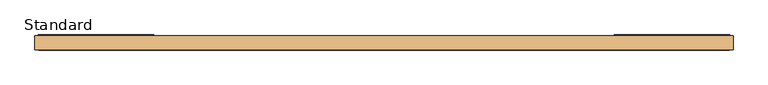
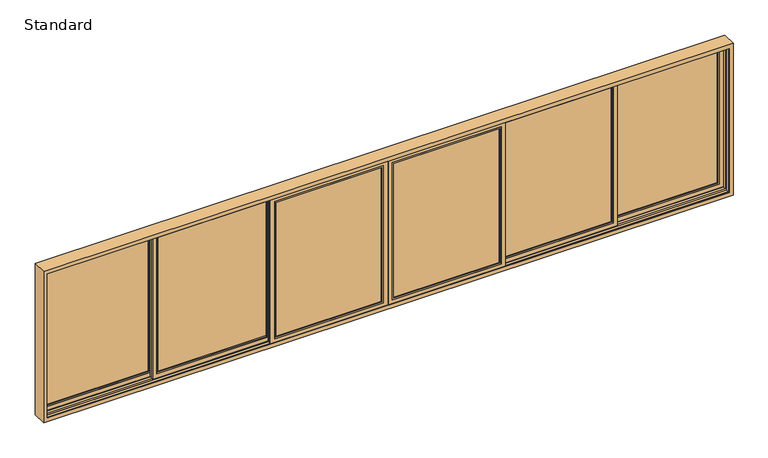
"""IFC4 building model written with IfcOpenShell, lengths in millimetres: door geometry, SMARTS_Visoglide Plus : Standard."""

from ifc_helpers import new_model, si_unit, frame, origin, place, context, project, spatial, polyline, outline, extrude, faceted_brep, source, transform, mapped, element, save


def standard_5dccf147(model_context):
    return source(origin(), model_context, "Body", "SolidModel", [
        extrude(outline(polyline([(4392.5, 67.0), (3023.1666667, 67.0), (3023.1666667, 71.0), (4392.5, 71.0), (4392.5, 67.0)])), frame((0.0, 0.0, 907.5), z_axis=(0.0, 0.0, 1.0), x_axis=(1.0, 0.0, 0.0)), (0.0, 0.0, 1.0), 1885.0),
        extrude(outline(polyline([(4392.5, 87.0), (3023.1666667, 87.0), (3023.1666667, 91.0), (4392.5, 91.0), (4392.5, 87.0)])), frame((0.0, 0.0, 907.5), z_axis=(0.0, 0.0, 1.0), x_axis=(1.0, 0.0, 0.0)), (0.0, 0.0, 1.0), 1885.0),
        extrude(outline(polyline([(2792.5, 3023.1666667), (907.5, 3023.1666667), (907.5, 4392.5), (2792.5, 4392.5), (2792.5, 3023.1666667)]), holes=[polyline([(2782.5, 4382.5), (917.5, 4382.5), (917.5, 3033.1666667), (2782.5, 3033.1666667), (2782.5, 4382.5)])]), frame((0.0, 71.0, 0.0), z_axis=(0.0, 1.0, 0.0), x_axis=(0.0, 0.0, 1.0)), (0.0, 0.0, 1.0), 16.0),
        extrude(outline(polyline([(2797.5, 4397.5), (2797.5, 3018.1666667), (902.5, 3018.1666667), (902.5, 4397.5), (2797.5, 4397.5)]), holes=[polyline([(922.5, 4377.5), (922.5, 3038.1666667), (2777.5, 3038.1666667), (2777.5, 4377.5), (922.5, 4377.5)])]), frame((0.0, 48.0, 0.0), z_axis=(0.0, 1.0, 0.0), x_axis=(0.0, 0.0, 1.0)), (0.0, 0.0, 1.0), 11.9897777),
        extrude(outline(polyline([(2851.5, 4451.5), (2851.5, 2964.1666667), (848.5, 2964.1666667), (848.5, 4451.5), (2851.5, 4451.5)]), holes=[polyline([(902.5, 4397.5), (902.5, 3018.1666667), (2797.5, 3018.1666667), (2797.5, 4397.5), (902.5, 4397.5)])]), frame((0.0, 48.0, 0.0), z_axis=(0.0, 1.0, 0.0), x_axis=(0.0, 0.0, 1.0)), (0.0, 0.0, 1.0), 24.0),
        faceted_brep([(4377.5, 95.0, 2777.5), (4377.5, 99.0, 2777.5), (4377.5, 99.0, 922.5), (4377.5, 95.0, 922.5), (4400.5, 72.0, 2800.5), (4400.5, 95.0, 2800.5), (4400.5, 95.0, 899.5), (4400.5, 72.0, 899.5), (4451.5, 99.0, 2851.5), (4451.5, 72.0, 2851.5), (4451.5, 72.0, 848.5), (4451.5, 99.0, 848.5), (3038.1666667, 99.0, 922.5), (3038.1666667, 95.0, 922.5), (3015.1666667, 95.0, 899.5), (3015.1666667, 72.0, 899.5), (2964.1666667, 72.0, 848.5), (2964.1666667, 99.0, 848.5), (3038.1666667, 99.0, 2777.5), (3038.1666667, 95.0, 2777.5), (3015.1666667, 95.0, 2800.5), (3015.1666667, 72.0, 2800.5), (2964.1666667, 72.0, 2851.5), (2964.1666667, 99.0, 2851.5)], [[[0, 1, 2, 3]], [[4, 5, 6, 7]], [[8, 9, 10, 11]], [[3, 2, 12, 13]], [[7, 6, 14, 15]], [[11, 10, 16, 17]], [[13, 12, 18, 19]], [[15, 14, 20, 21]], [[17, 16, 22, 23]], [[11, 17, 23, 8], [1, 18, 12, 2]], [[19, 18, 1, 0]], [[5, 20, 14, 6], [3, 13, 19, 0]], [[21, 20, 5, 4]], [[9, 22, 16, 10], [7, 15, 21, 4]], [[23, 22, 9, 8]]]),
        extrude(outline(polyline([(2970.1666667, 0.0), (1524.8333333, 0.0), (1524.8333333, 4.0), (2970.1666667, 4.0), (2970.1666667, 0.0)])), frame((0.0, 0.0, 907.5), z_axis=(0.0, 0.0, 1.0), x_axis=(1.0, 0.0, 0.0)), (0.0, 0.0, 1.0), 1885.0),
        extrude(outline(polyline([(2970.1666667, 20.0), (1524.8333333, 20.0), (1524.8333333, 24.0), (2970.1666667, 24.0), (2970.1666667, 20.0)])), frame((0.0, 0.0, 907.5), z_axis=(0.0, 0.0, 1.0), x_axis=(1.0, 0.0, 0.0)), (0.0, 0.0, 1.0), 1885.0),
        extrude(outline(polyline([(2792.5, 1524.8333333), (907.5, 1524.8333333), (907.5, 2970.1666667), (2792.5, 2970.1666667), (2792.5, 1524.8333333)]), holes=[polyline([(2782.5, 2960.1666667), (917.5, 2960.1666667), (917.5, 1534.8333333), (2782.5, 1534.8333333), (2782.5, 2960.1666667)])]), frame((0.0, 4.0, 0.0), z_axis=(0.0, 1.0, 0.0), x_axis=(0.0, 0.0, 1.0)), (0.0, 0.0, 1.0), 16.0),
        extrude(outline(polyline([(2797.5, 2975.1666667), (2797.5, 1519.8333333), (902.5, 1519.8333333), (902.5, 2975.1666667), (2797.5, 2975.1666667)]), holes=[polyline([(922.5, 2955.1666667), (922.5, 1539.8333333), (2777.5, 1539.8333333), (2777.5, 2955.1666667), (922.5, 2955.1666667)])]), frame((0.0, -19.0, 0.0), z_axis=(0.0, 1.0, 0.0), x_axis=(0.0, 0.0, 1.0)), (0.0, 0.0, 1.0), 11.9897777),
        extrude(outline(polyline([(2851.5, 3029.1666667), (2851.5, 1465.8333333), (848.5, 1465.8333333), (848.5, 3029.1666667), (2851.5, 3029.1666667)]), holes=[polyline([(902.5, 2975.1666667), (902.5, 1519.8333333), (2797.5, 1519.8333333), (2797.5, 2975.1666667), (902.5, 2975.1666667)])]), frame((0.0, -19.0, 0.0), z_axis=(0.0, 1.0, 0.0), x_axis=(0.0, 0.0, 1.0)), (0.0, 0.0, 1.0), 24.0),
        faceted_brep([(2955.1666667, 28.0, 2777.5), (2955.1666667, 32.0, 2777.5), (2955.1666667, 32.0, 922.5), (2955.1666667, 28.0, 922.5), (2978.1666667, 5.0, 2800.5), (2978.1666667, 28.0, 2800.5), (2978.1666667, 28.0, 899.5), (2978.1666667, 5.0, 899.5), (3029.1666667, 32.0, 2851.5), (3029.1666667, 5.0, 2851.5), (3029.1666667, 5.0, 848.5), (3029.1666667, 32.0, 848.5), (1539.8333333, 32.0, 922.5), (1539.8333333, 28.0, 922.5), (1516.8333333, 28.0, 899.5), (1516.8333333, 5.0, 899.5), (1465.8333333, 5.0, 848.5), (1465.8333333, 32.0, 848.5), (1539.8333333, 32.0, 2777.5), (1539.8333333, 28.0, 2777.5), (1516.8333333, 28.0, 2800.5), (1516.8333333, 5.0, 2800.5), (1465.8333333, 5.0, 2851.5), (1465.8333333, 32.0, 2851.5)], [[[0, 1, 2, 3]], [[4, 5, 6, 7]], [[8, 9, 10, 11]], [[3, 2, 12, 13]], [[7, 6, 14, 15]], [[11, 10, 16, 17]], [[13, 12, 18, 19]], [[15, 14, 20, 21]], [[17, 16, 22, 23]], [[11, 17, 23, 8], [1, 18, 12, 2]], [[19, 18, 1, 0]], [[5, 20, 14, 6], [3, 13, 19, 0]], [[21, 20, 5, 4]], [[9, 22, 16, 10], [7, 15, 21, 4]], [[23, 22, 9, 8]]]),
        extrude(outline(polyline([(1471.8333333, -67.0), (63.0, -67.0), (63.0, -63.0), (1471.8333333, -63.0), (1471.8333333, -67.0)])), frame((0.0, 0.0, 907.5), z_axis=(0.0, 0.0, 1.0), x_axis=(1.0, 0.0, 0.0)), (0.0, 0.0, 1.0), 1885.0),
        extrude(outline(polyline([(1471.8333333, -47.0), (63.0, -47.0), (63.0, -43.0), (1471.8333333, -43.0), (1471.8333333, -47.0)])), frame((0.0, 0.0, 907.5), z_axis=(0.0, 0.0, 1.0), x_axis=(1.0, 0.0, 0.0)), (0.0, 0.0, 1.0), 1885.0),
        extrude(outline(polyline([(2792.5, 63.0), (907.5, 63.0), (907.5, 1471.8333333), (2792.5, 1471.8333333), (2792.5, 63.0)]), holes=[polyline([(2782.5, 1461.8333333), (917.5, 1461.8333333), (917.5, 73.0), (2782.5, 73.0), (2782.5, 1461.8333333)])]), frame((0.0, -63.0, 0.0), z_axis=(0.0, 1.0, 0.0), x_axis=(0.0, 0.0, 1.0)), (0.0, 0.0, 1.0), 16.0),
        extrude(outline(polyline([(2797.5, 1476.8333333), (2797.5, 58.0), (902.5, 58.0), (902.5, 1476.8333333), (2797.5, 1476.8333333)]), holes=[polyline([(922.5, 1456.8333333), (922.5, 78.0), (2777.5, 78.0), (2777.5, 1456.8333333), (922.5, 1456.8333333)])]), frame((0.0, -86.0, 0.0), z_axis=(0.0, 1.0, 0.0), x_axis=(0.0, 0.0, 1.0)), (0.0, 0.0, 1.0), 11.9897777),
        extrude(outline(polyline([(2851.5, 1530.8333333), (2851.5, 4.0), (848.5, 4.0), (848.5, 1530.8333333), (2851.5, 1530.8333333)]), holes=[polyline([(902.5, 1476.8333333), (902.5, 58.0), (2797.5, 58.0), (2797.5, 1476.8333333), (902.5, 1476.8333333)])]), frame((0.0, -86.0, 0.0), z_axis=(0.0, 1.0, 0.0), x_axis=(0.0, 0.0, 1.0)), (0.0, 0.0, 1.0), 24.0),
        faceted_brep([(1456.8333333, -39.0, 2777.5), (1456.8333333, -35.0, 2777.5), (1456.8333333, -35.0, 922.5), (1456.8333333, -39.0, 922.5), (1479.8333333, -62.0, 2800.5), (1479.8333333, -39.0, 2800.5), (1479.8333333, -39.0, 899.5), (1479.8333333, -62.0, 899.5), (1530.8333333, -35.0, 2851.5), (1530.8333333, -62.0, 2851.5), (1530.8333333, -62.0, 848.5), (1530.8333333, -35.0, 848.5), (78.0, -35.0, 922.5), (78.0, -39.0, 922.5), (55.0, -39.0, 899.5), (55.0, -62.0, 899.5), (4.0, -62.0, 848.5), (4.0, -35.0, 848.5), (78.0, -35.0, 2777.5), (78.0, -39.0, 2777.5), (55.0, -39.0, 2800.5), (55.0, -62.0, 2800.5), (4.0, -62.0, 2851.5), (4.0, -35.0, 2851.5)], [[[0, 1, 2, 3]], [[4, 5, 6, 7]], [[8, 9, 10, 11]], [[3, 2, 12, 13]], [[7, 6, 14, 15]], [[11, 10, 16, 17]], [[13, 12, 18, 19]], [[15, 14, 20, 21]], [[17, 16, 22, 23]], [[11, 17, 23, 8], [1, 18, 12, 2]], [[19, 18, 1, 0]], [[5, 20, 14, 6], [3, 13, 19, 0]], [[21, 20, 5, 4]], [[9, 22, 16, 10], [7, 15, 21, 4]], [[23, 22, 9, 8]]]),
        extrude(outline(polyline([(-63.0, -67.0), (-1471.8333333, -67.0), (-1471.8333333, -63.0), (-63.0, -63.0), (-63.0, -67.0)])), frame((0.0, 0.0, 907.5), z_axis=(0.0, 0.0, 1.0), x_axis=(1.0, 0.0, 0.0)), (0.0, 0.0, 1.0), 1885.0),
        extrude(outline(polyline([(-63.0, -47.0), (-1471.8333333, -47.0), (-1471.8333333, -43.0), (-63.0, -43.0), (-63.0, -47.0)])), frame((0.0, 0.0, 907.5), z_axis=(0.0, 0.0, 1.0), x_axis=(1.0, 0.0, 0.0)), (0.0, 0.0, 1.0), 1885.0),
        extrude(outline(polyline([(2792.5, -1471.8333333), (907.5, -1471.8333333), (907.5, -63.0), (2792.5, -63.0), (2792.5, -1471.8333333)]), holes=[polyline([(2782.5, -73.0), (917.5, -73.0), (917.5, -1461.8333333), (2782.5, -1461.8333333), (2782.5, -73.0)])]), frame((0.0, -63.0, 0.0), z_axis=(0.0, 1.0, 0.0), x_axis=(0.0, 0.0, 1.0)), (0.0, 0.0, 1.0), 16.0),
        extrude(outline(polyline([(2797.5, -58.0), (2797.5, -1476.8333333), (902.5, -1476.8333333), (902.5, -58.0), (2797.5, -58.0)]), holes=[polyline([(922.5, -78.0), (922.5, -1456.8333333), (2777.5, -1456.8333333), (2777.5, -78.0), (922.5, -78.0)])]), frame((0.0, -86.0, 0.0), z_axis=(0.0, 1.0, 0.0), x_axis=(0.0, 0.0, 1.0)), (0.0, 0.0, 1.0), 11.9897777),
        extrude(outline(polyline([(2851.5, -4.0), (2851.5, -1530.8333333), (848.5, -1530.8333333), (848.5, -4.0), (2851.5, -4.0)]), holes=[polyline([(902.5, -58.0), (902.5, -1476.8333333), (2797.5, -1476.8333333), (2797.5, -58.0), (902.5, -58.0)])]), frame((0.0, -86.0, 0.0), z_axis=(0.0, 1.0, 0.0), x_axis=(0.0, 0.0, 1.0)), (0.0, 0.0, 1.0), 24.0),
        faceted_brep([(-78.0, -39.0, 2777.5), (-78.0, -35.0, 2777.5), (-78.0, -35.0, 922.5), (-78.0, -39.0, 922.5), (-55.0, -62.0, 2800.5), (-55.0, -39.0, 2800.5), (-55.0, -39.0, 899.5), (-55.0, -62.0, 899.5), (-4.0, -35.0, 2851.5), (-4.0, -62.0, 2851.5), (-4.0, -62.0, 848.5), (-4.0, -35.0, 848.5), (-1456.8333333, -35.0, 922.5), (-1456.8333333, -39.0, 922.5), (-1479.8333333, -39.0, 899.5), (-1479.8333333, -62.0, 899.5), (-1530.8333333, -62.0, 848.5), (-1530.8333333, -35.0, 848.5), (-1456.8333333, -35.0, 2777.5), (-1456.8333333, -39.0, 2777.5), (-1479.8333333, -39.0, 2800.5), (-1479.8333333, -62.0, 2800.5), (-1530.8333333, -62.0, 2851.5), (-1530.8333333, -35.0, 2851.5)], [[[0, 1, 2, 3]], [[4, 5, 6, 7]], [[8, 9, 10, 11]], [[3, 2, 12, 13]], [[7, 6, 14, 15]], [[11, 10, 16, 17]], [[13, 12, 18, 19]], [[15, 14, 20, 21]], [[17, 16, 22, 23]], [[11, 17, 23, 8], [1, 18, 12, 2]], [[19, 18, 1, 0]], [[5, 20, 14, 6], [3, 13, 19, 0]], [[21, 20, 5, 4]], [[9, 22, 16, 10], [7, 15, 21, 4]], [[23, 22, 9, 8]]]),
        extrude(outline(polyline([(-1524.8333333, 0.0), (-2970.1666667, 0.0), (-2970.1666667, 4.0), (-1524.8333333, 4.0), (-1524.8333333, 0.0)])), frame((0.0, 0.0, 907.5), z_axis=(0.0, 0.0, 1.0), x_axis=(1.0, 0.0, 0.0)), (0.0, 0.0, 1.0), 1885.0),
        extrude(outline(polyline([(-1524.8333333, 20.0), (-2970.1666667, 20.0), (-2970.1666667, 24.0), (-1524.8333333, 24.0), (-1524.8333333, 20.0)])), frame((0.0, 0.0, 907.5), z_axis=(0.0, 0.0, 1.0), x_axis=(1.0, 0.0, 0.0)), (0.0, 0.0, 1.0), 1885.0),
        extrude(outline(polyline([(2792.5, -2970.1666667), (907.5, -2970.1666667), (907.5, -1524.8333333), (2792.5, -1524.8333333), (2792.5, -2970.1666667)]), holes=[polyline([(2782.5, -1534.8333333), (917.5, -1534.8333333), (917.5, -2960.1666667), (2782.5, -2960.1666667), (2782.5, -1534.8333333)])]), frame((0.0, 4.0, 0.0), z_axis=(0.0, 1.0, 0.0), x_axis=(0.0, 0.0, 1.0)), (0.0, 0.0, 1.0), 16.0),
        extrude(outline(polyline([(2797.5, -1519.8333333), (2797.5, -2975.1666667), (902.5, -2975.1666667), (902.5, -1519.8333333), (2797.5, -1519.8333333)]), holes=[polyline([(922.5, -1539.8333333), (922.5, -2955.1666667), (2777.5, -2955.1666667), (2777.5, -1539.8333333), (922.5, -1539.8333333)])]), frame((0.0, -19.0, 0.0), z_axis=(0.0, 1.0, 0.0), x_axis=(0.0, 0.0, 1.0)), (0.0, 0.0, 1.0), 11.9897777),
        extrude(outline(polyline([(2851.5, -1465.8333333), (2851.5, -3029.1666667), (848.5, -3029.1666667), (848.5, -1465.8333333), (2851.5, -1465.8333333)]), holes=[polyline([(902.5, -1519.8333333), (902.5, -2975.1666667), (2797.5, -2975.1666667), (2797.5, -1519.8333333), (902.5, -1519.8333333)])]), frame((0.0, -19.0, 0.0), z_axis=(0.0, 1.0, 0.0), x_axis=(0.0, 0.0, 1.0)), (0.0, 0.0, 1.0), 24.0),
        faceted_brep([(-1539.8333333, 28.0, 2777.5), (-1539.8333333, 32.0, 2777.5), (-1539.8333333, 32.0, 922.5), (-1539.8333333, 28.0, 922.5), (-1516.8333333, 5.0, 2800.5), (-1516.8333333, 28.0, 2800.5), (-1516.8333333, 28.0, 899.5), (-1516.8333333, 5.0, 899.5), (-1465.8333333, 32.0, 2851.5), (-1465.8333333, 5.0, 2851.5), (-1465.8333333, 5.0, 848.5), (-1465.8333333, 32.0, 848.5), (-2955.1666667, 32.0, 922.5), (-2955.1666667, 28.0, 922.5), (-2978.1666667, 28.0, 899.5), (-2978.1666667, 5.0, 899.5), (-3029.1666667, 5.0, 848.5), (-3029.1666667, 32.0, 848.5), (-2955.1666667, 32.0, 2777.5), (-2955.1666667, 28.0, 2777.5), (-2978.1666667, 28.0, 2800.5), (-2978.1666667, 5.0, 2800.5), (-3029.1666667, 5.0, 2851.5), (-3029.1666667, 32.0, 2851.5)], [[[0, 1, 2, 3]], [[4, 5, 6, 7]], [[8, 9, 10, 11]], [[3, 2, 12, 13]], [[7, 6, 14, 15]], [[11, 10, 16, 17]], [[13, 12, 18, 19]], [[15, 14, 20, 21]], [[17, 16, 22, 23]], [[11, 17, 23, 8], [1, 18, 12, 2]], [[19, 18, 1, 0]], [[5, 20, 14, 6], [3, 13, 19, 0]], [[21, 20, 5, 4]], [[9, 22, 16, 10], [7, 15, 21, 4]], [[23, 22, 9, 8]]]),
        extrude(outline(polyline([(-3023.1666667, 67.0), (-4392.5, 67.0), (-4392.5, 71.0), (-3023.1666667, 71.0), (-3023.1666667, 67.0)])), frame((0.0, 0.0, 907.5), z_axis=(0.0, 0.0, 1.0), x_axis=(1.0, 0.0, 0.0)), (0.0, 0.0, 1.0), 1885.0),
        extrude(outline(polyline([(-3023.1666667, 87.0), (-4392.5, 87.0), (-4392.5, 91.0), (-3023.1666667, 91.0), (-3023.1666667, 87.0)])), frame((0.0, 0.0, 907.5), z_axis=(0.0, 0.0, 1.0), x_axis=(1.0, 0.0, 0.0)), (0.0, 0.0, 1.0), 1885.0),
        extrude(outline(polyline([(2792.5, -4392.5), (907.5, -4392.5), (907.5, -3023.1666667), (2792.5, -3023.1666667), (2792.5, -4392.5)]), holes=[polyline([(2782.5, -3033.1666667), (917.5, -3033.1666667), (917.5, -4382.5), (2782.5, -4382.5), (2782.5, -3033.1666667)])]), frame((0.0, 71.0, 0.0), z_axis=(0.0, 1.0, 0.0), x_axis=(0.0, 0.0, 1.0)), (0.0, 0.0, 1.0), 16.0),
        extrude(outline(polyline([(2797.5, -3018.1666667), (2797.5, -4397.5), (902.5, -4397.5), (902.5, -3018.1666667), (2797.5, -3018.1666667)]), holes=[polyline([(922.5, -3038.1666667), (922.5, -4377.5), (2777.5, -4377.5), (2777.5, -3038.1666667), (922.5, -3038.1666667)])]), frame((0.0, 48.0, 0.0), z_axis=(0.0, 1.0, 0.0), x_axis=(0.0, 0.0, 1.0)), (0.0, 0.0, 1.0), 11.9897777),
        extrude(outline(polyline([(2851.5, -2964.1666667), (2851.5, -4451.5), (848.5, -4451.5), (848.5, -2964.1666667), (2851.5, -2964.1666667)]), holes=[polyline([(902.5, -3018.1666667), (902.5, -4397.5), (2797.5, -4397.5), (2797.5, -3018.1666667), (902.5, -3018.1666667)])]), frame((0.0, 48.0, 0.0), z_axis=(0.0, 1.0, 0.0), x_axis=(0.0, 0.0, 1.0)), (0.0, 0.0, 1.0), 24.0),
        faceted_brep([(-3038.1666667, 95.0, 2777.5), (-3038.1666667, 99.0, 2777.5), (-3038.1666667, 99.0, 922.5), (-3038.1666667, 95.0, 922.5), (-3015.1666667, 72.0, 2800.5), (-3015.1666667, 95.0, 2800.5), (-3015.1666667, 95.0, 899.5), (-3015.1666667, 72.0, 899.5), (-2964.1666667, 99.0, 2851.5), (-2964.1666667, 72.0, 2851.5), (-2964.1666667, 72.0, 848.5), (-2964.1666667, 99.0, 848.5), (-4377.5, 99.0, 922.5), (-4377.5, 95.0, 922.5), (-4400.5, 95.0, 899.5), (-4400.5, 72.0, 899.5), (-4451.5, 72.0, 848.5), (-4451.5, 99.0, 848.5), (-4377.5, 99.0, 2777.5), (-4377.5, 95.0, 2777.5), (-4400.5, 95.0, 2800.5), (-4400.5, 72.0, 2800.5), (-4451.5, 72.0, 2851.5), (-4451.5, 99.0, 2851.5)], [[[0, 1, 2, 3]], [[4, 5, 6, 7]], [[8, 9, 10, 11]], [[3, 2, 12, 13]], [[7, 6, 14, 15]], [[11, 10, 16, 17]], [[13, 12, 18, 19]], [[15, 14, 20, 21]], [[17, 16, 22, 23]], [[11, 17, 23, 8], [1, 18, 12, 2]], [[19, 18, 1, 0]], [[5, 20, 14, 6], [3, 13, 19, 0]], [[21, 20, 5, 4]], [[9, 22, 16, 10], [7, 15, 21, 4]], [[23, 22, 9, 8]]]),
        faceted_brep([(4495.0, -95.0, 2895.0), (4495.0, 89.39785, 2895.0), (-4495.0, 89.39785, 2895.0), (-4495.0, -95.0, 2895.0), (4443.1999999, -91.0, 2843.1999999), (4443.1999999, -95.0, 2843.1999999), (-4443.1999999, -95.0, 2843.1999999), (-4443.1999999, -91.0, 2843.1999999), (4469.1999999, -76.3, 2869.1999999), (4469.1999999, -91.0, 2869.1999999), (-4469.1999999, -91.0, 2869.1999999), (-4469.1999999, -76.3, 2869.1999999), (4443.1999999, -43.7842251, 2843.1999999), (4443.1999999, -76.3, 2843.1999999), (-4443.1999999, -76.3, 2843.1999999), (-4443.1999999, -43.7842251, 2843.1999999), (4469.1999999, -9.7842251, 2869.1999999), (4469.1999999, -43.7842251, 2869.1999999), (-4469.1999999, -43.7842251, 2869.1999999), (-4469.1999999, -9.7842251, 2869.1999999), (4443.1999999, 22.7989407, 2843.1999999), (4443.1999999, -9.7842251, 2843.1999999), (-4443.1999999, -9.7842251, 2843.1999999), (-4443.1999999, 22.7989407, 2843.1999999), (4469.2, 56.7989407, 2869.2), (4469.2, 22.7989407, 2869.2), (-4469.2, 22.7989407, 2869.2), (-4469.2, 56.7989407, 2869.2), (4443.0, 89.39785, 2843.0), (4443.0, 56.7989407, 2843.0), (-4443.0, 56.7989407, 2843.0), (-4443.0, 89.39785, 2843.0), (-4495.0, 89.39785, 805.0), (-4495.0, -95.0, 805.0), (-4443.1999999, -95.0, 856.8000001), (-4443.1999999, -91.0, 856.8000001), (-4469.1999999, -91.0, 830.8000001), (-4469.1999999, -76.3, 830.8000001), (-4443.1999999, -76.3, 856.8000001), (-4443.1999999, -43.7842251, 856.8000001), (-4469.1999999, -43.7842251, 830.8000001), (-4469.1999999, -9.7842251, 830.8000001), (-4443.1999999, -9.7842251, 856.8000001), (-4443.1999999, 22.7989407, 856.8000001), (-4469.2, 22.7989407, 830.8), (-4469.2, 56.7989407, 830.8), (-4443.0, 56.7989407, 857.0), (-4443.0, 89.39785, 857.0), (4495.0, 89.39785, 805.0), (4495.0, -95.0, 805.0), (4443.1999999, -95.0, 856.8000001), (4443.1999999, -91.0, 856.8000001), (4469.1999999, -91.0, 830.8000001), (4469.1999999, -76.3, 830.8000001), (4443.1999999, -76.3, 856.8000001), (4443.1999999, -43.7842251, 856.8000001), (4469.1999999, -43.7842251, 830.8000001), (4469.1999999, -9.7842251, 830.8000001), (4443.1999999, -9.7842251, 856.8000001), (4443.1999999, 22.7989407, 856.8000001), (4469.2, 22.7989407, 830.8), (4469.2, 56.7989407, 830.8), (4443.0, 56.7989407, 857.0), (4443.0, 89.39785, 857.0)], [[[0, 1, 2, 3]], [[4, 5, 6, 7]], [[8, 9, 10, 11]], [[12, 13, 14, 15]], [[16, 17, 18, 19]], [[20, 21, 22, 23]], [[24, 25, 26, 27]], [[28, 29, 30, 31]], [[3, 2, 32, 33]], [[7, 6, 34, 35]], [[11, 10, 36, 37]], [[15, 14, 38, 39]], [[19, 18, 40, 41]], [[23, 22, 42, 43]], [[27, 26, 44, 45]], [[31, 30, 46, 47]], [[33, 32, 48, 49]], [[35, 34, 50, 51]], [[37, 36, 52, 53]], [[39, 38, 54, 55]], [[41, 40, 56, 57]], [[43, 42, 58, 59]], [[45, 44, 60, 61]], [[47, 46, 62, 63]], [[1, 48, 32, 2], [31, 47, 63, 28]], [[49, 48, 1, 0]], [[3, 33, 49, 0], [5, 50, 34, 6]], [[51, 50, 5, 4]], [[9, 52, 36, 10], [7, 35, 51, 4]], [[53, 52, 9, 8]], [[11, 37, 53, 8], [13, 54, 38, 14]], [[55, 54, 13, 12]], [[17, 56, 40, 18], [15, 39, 55, 12]], [[57, 56, 17, 16]], [[19, 41, 57, 16], [21, 58, 42, 22]], [[59, 58, 21, 20]], [[25, 60, 44, 26], [23, 43, 59, 20]], [[61, 60, 25, 24]], [[27, 45, 61, 24], [29, 62, 46, 30]], [[63, 62, 29, 28]]]),
    ])


if __name__ == "__main__":
    model = new_model("IFC4")
    model_context = context("Model", 3, world=origin())
    ifc_project = project(units=[si_unit("LENGTHUNIT", "METRE", prefix="MILLI")], contexts=[model_context])
    site = spatial("IfcSite", under=ifc_project)
    building = spatial("IfcBuilding", under=site)
    placement = place(None, origin())
    standard_shape = standard_5dccf147(model_context)
    element("IfcDoor", 1, ObjectType="SMARTS_Visoglide Plus : Standard", at=placement, inside=building, context=model_context, shape_type="MappedRepresentation", body=[
        mapped(standard_shape, transform((0.0, 0.0, 0.0), x_axis=(1.0, 0.0, 0.0), y_axis=(0.0, 1.0, 0.0), z_axis=(0.0, 0.0, 1.0))),
    ])
    save(model, "model.ifc")
